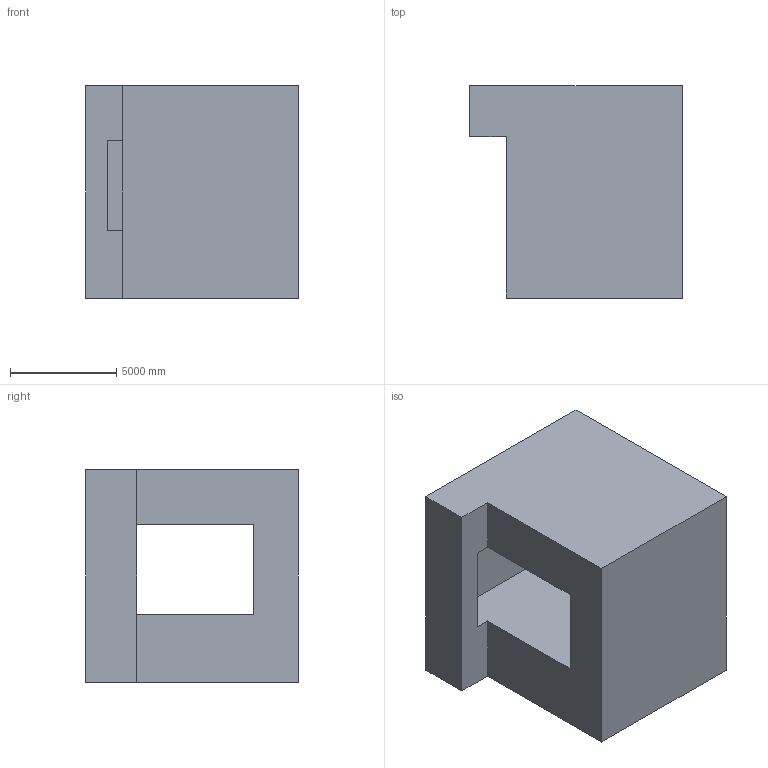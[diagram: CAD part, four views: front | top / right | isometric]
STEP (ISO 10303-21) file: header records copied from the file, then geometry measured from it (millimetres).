
FILE_DESCRIPTION (( 'STEP AP203' ), '1' );
FILE_NAME ('1016.STEP', '2022-08-18T12:26:04', ( 'user' ), ( '' ), 'SwSTEP 2.0', 'SolidWorks 2021', '' );
FILE_SCHEMA (( 'CONFIG_CONTROL_DESIGN' ));
Length unit declared in the file: centimetre
Products named in the file (1): 1016
Bounding box: 10000 x 10000 x 10000 mm (x, y, z)
Volume: 610461266206.8 mm3; surface area: 719564867 mm2
Topology: 1 solids, 1 shells, 13 faces, 36 edges, 24 vertices
Faces by surface type: plane 13
Entity records: 491 total; most frequent: CARTESIAN_POINT 74, ORIENTED_EDGE 72, DIRECTION 64, VECTOR 36, EDGE_CURVE 36, LINE 36, VERTEX_POINT 24, EDGE_LOOP 14
